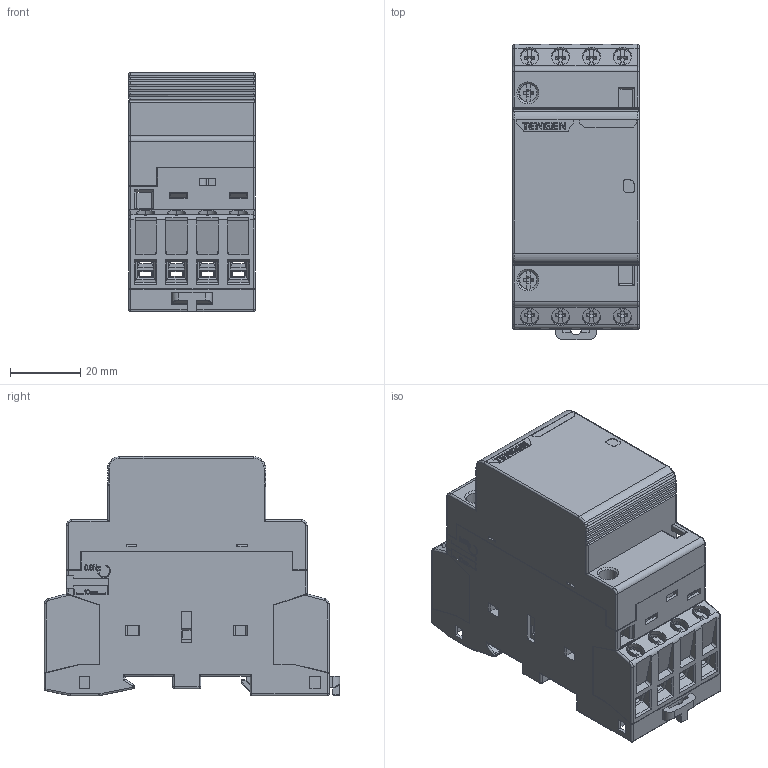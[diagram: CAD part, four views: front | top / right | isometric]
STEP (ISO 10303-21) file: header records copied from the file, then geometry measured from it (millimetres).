
FILE_DESCRIPTION (( 'STEP AP214' ), '1' );
FILE_NAME ('TGCH1N-2531.STEP', '2025-12-12T12:07:21', ( '' ), ( '' ), 'SwSTEP 2.0', 'SolidWorks 2024', '' );
FILE_SCHEMA (( 'AUTOMOTIVE_DESIGN' ));
Products named in the file (5): 2TZD_401_6002_SW0001_1_1.stp; 2TZD_401_6002_SW0001_3_1.stp; 2TZD_401_6002_SW0001_2_1.stp; TGCH1N-2531; TGCH1N-2531.stp
Assembly tree (4 placements, depth 3):
  TGCH1N-2531
    TGCH1N-2531.stp
      2TZD_401_6002_SW0001_1_1.stp
      2TZD_401_6002_SW0001_2_1.stp
      2TZD_401_6002_SW0001_3_1.stp
Bounding box: 36 x 84 x 68.05 mm (x, y, z)
Volume: 47553.4 mm3; surface area: 74727.2 mm2
Topology: 3 solids, 3 shells, 4337 faces, 12112 edges, 7741 vertices
Faces by surface type: plane 3185, cylinder 731, torus 151, bspline 144, cone 98, sphere 28
Entity records: 144527 total; most frequent: CARTESIAN_POINT 34037, ORIENTED_EDGE 24184, DIRECTION 21149, EDGE_CURVE 12092, VECTOR 9611, LINE 9611, VERTEX_POINT 7740, AXIS2_PLACEMENT_3D 5769
